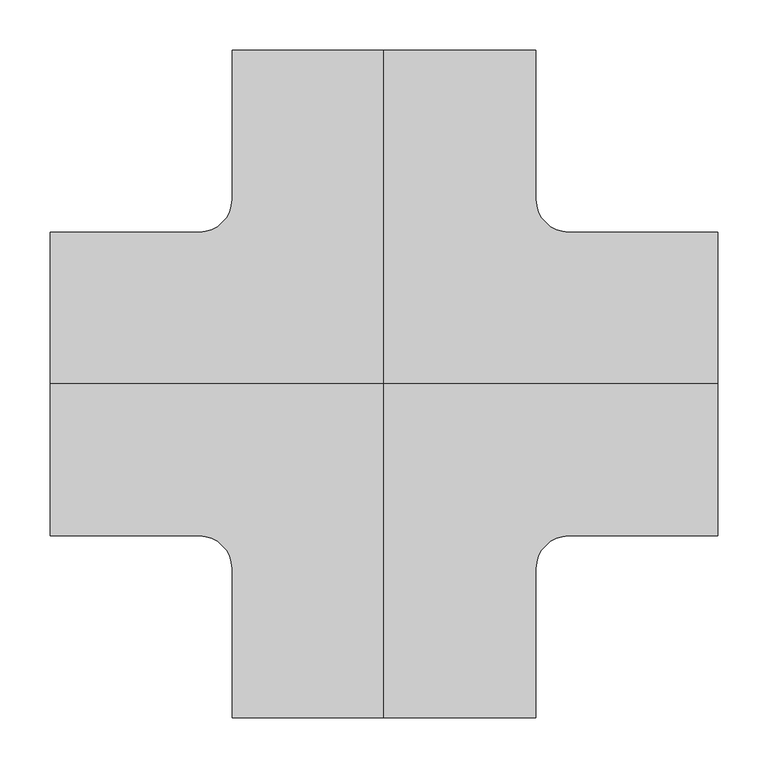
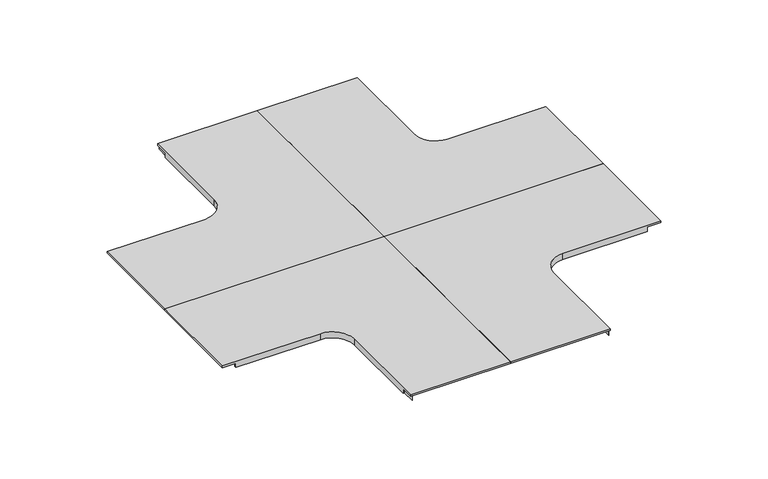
"""IFC4 building model written with IfcOpenShell, lengths in millimetres: cable carrier fitting geometry, CCT_Hyperline_FBTR-CRS-CVR_Крышка на ответвитель крестообразный пластиковый : Крышка на ответвитель крестообразный пластиковый."""

import ifcopenshell
import ifcopenshell.guid

model = None  # the IFC model being written
_history = None  # IfcOwnerHistory: only IFC2X3 demands one
_inside = {}  # id of a spatial element -> (the spatial element, [elements in it])
_under = {}  # id of a project, library or spatial element -> (it, [spatial elements below it])
_declared = {}  # id of a project -> (the project, [libraries it declares])
_typed = {}  # id of a type object -> (the type object, [elements of that type])
_made_of = {}  # id of a material, layer set ... -> (it, [elements and type objects made of it])


def new_model(schema):
    """Start an empty IFC model of exactly this schema.

    Asked for "IFC4X3", IfcOpenShell would pick the latest addendum, in which some entities
    have other attributes; the version numbers below select the first issue.
    IFC2X3 requires an IfcOwnerHistory on every rooted entity: one is made here for all.
    """
    global model, _history
    if schema == "IFC4X3":
        model = ifcopenshell.file(schema_version=(4, 3, 0, 0))
    else:
        model = ifcopenshell.file(schema=schema)
    _inside.clear()
    _under.clear()
    _declared.clear()
    _typed.clear()
    _made_of.clear()
    _history = None
    if model.schema == "IFC2X3":
        org = make("IfcOrganization", Name="unknown")
        user = make(
            "IfcPersonAndOrganization",
            ThePerson=make("IfcPerson", FamilyName="unknown"),
            TheOrganization=org,
        )
        app = make(
            "IfcApplication",
            ApplicationDeveloper=org,
            Version="unknown",
            ApplicationFullName="unknown",
            ApplicationIdentifier="unknown",
        )
        _history = make(
            "IfcOwnerHistory",
            OwningUser=user,
            OwningApplication=app,
            ChangeAction="ADDED",
            CreationDate=0,
        )
    return model


def make(cls, **values):
    """One entity of the class cls with the attributes given. An attribute that is None is left unset."""
    return model.create_entity(
        cls, **{name: value for name, value in values.items() if value is not None}
    )


def rooted(cls, **values):
    """An entity with a GlobalId (a new one), such as an element, a storey or a relation."""
    return make(cls, GlobalId=ifcopenshell.guid.new(), OwnerHistory=_history, **values)


def si_unit(unit_type, name, prefix=None):
    """IfcSIUnit, for example si_unit("LENGTHUNIT", "METRE", prefix="MILLI")."""
    return make("IfcSIUnit", UnitType=unit_type, Prefix=prefix, Name=name)


def assignment(units):
    """IfcUnitAssignment: the units of a project."""
    return None if units is None else make("IfcUnitAssignment", Units=units)


def point(xyz):
    """IfcCartesianPoint."""
    return None if xyz is None else make("IfcCartesianPoint", Coordinates=xyz)


def direction(xyz):
    """IfcDirection."""
    return None if xyz is None else make("IfcDirection", DirectionRatios=xyz)


def frame(location, z_axis=None, x_axis=None):
    """IfcAxis2Placement3D, a coordinate frame: its origin and axes. An axis left out is left unset."""
    return make(
        "IfcAxis2Placement3D",
        Location=point(location),
        Axis=direction(z_axis),
        RefDirection=direction(x_axis),
    )


def origin():
    """The frame at (0, 0, 0) with its axes left unset."""
    return frame((0.0, 0.0, 0.0))


def place(relative_to, where):
    """IfcLocalPlacement: puts the frame where relative to a parent placement (None: the world)."""
    return make(
        "IfcLocalPlacement", PlacementRelTo=relative_to, RelativePlacement=where
    )


def context(
    kind, dimensions, precision=None, world=None, true_north=None, identifier=None
):
    """IfcGeometricRepresentationContext, for example the 3D "Model" context."""
    return make(
        "IfcGeometricRepresentationContext",
        ContextIdentifier=identifier,
        ContextType=kind,
        CoordinateSpaceDimension=dimensions,
        Precision=precision,
        WorldCoordinateSystem=world,
        TrueNorth=true_north,
    )


def project(units=None, contexts=None):
    """IfcProject with its units and contexts."""
    return rooted(
        "IfcProject",
        Name="project",
        RepresentationContexts=contexts,
        UnitsInContext=assignment(units),
    )


def spatial(cls, under=None, at=None, **own):
    """A site, building, storey or space (cls), placed at a placement, below another one or the project."""
    s = rooted(cls, ObjectPlacement=at, **own)
    if under is not None:
        _under.setdefault(under.id(), (under, []))[1].append(s)
    return s


def polyline(points):
    """IfcPolyline through the points."""
    return make("IfcPolyline", Points=[point(p) for p in points])


def circle_curve(where, radius):
    """IfcCircle in the frame where."""
    return make("IfcCircle", Position=where, Radius=radius)


def shape(context_of_items, identifier, shape_type, items):
    """IfcShapeRepresentation: the items that make up one representation, for example the "Body"."""
    return make(
        "IfcShapeRepresentation",
        ContextOfItems=context_of_items,
        RepresentationIdentifier=identifier,
        RepresentationType=shape_type,
        Items=items,
    )


def source(mapping_origin, context_of_items, identifier, shape_type, items):
    """IfcRepresentationMap: a shape defined once, which mapped items show again and again."""
    return make(
        "IfcRepresentationMap",
        MappingOrigin=mapping_origin,
        MappedRepresentation=shape(context_of_items, identifier, shape_type, items),
    )


def transform(
    local_origin,
    x_axis=None,
    y_axis=None,
    z_axis=None,
    scale=None,
    scale2=None,
    scale3=None,
    uniform=True,
):
    """IfcCartesianTransformationOperator3D, or its non-uniform kind. x_axis, y_axis, z_axis: its Axis1, 2, 3."""
    if uniform:
        return make(
            "IfcCartesianTransformationOperator3D",
            Axis1=direction(x_axis),
            Axis2=direction(y_axis),
            LocalOrigin=point(local_origin),
            Scale=scale,
            Axis3=direction(z_axis),
        )
    return make(
        "IfcCartesianTransformationOperator3DnonUniform",
        Axis1=direction(x_axis),
        Axis2=direction(y_axis),
        LocalOrigin=point(local_origin),
        Scale=scale,
        Axis3=direction(z_axis),
        Scale2=scale2,
        Scale3=scale3,
    )


def mapped(mapping_source, mapping_target):
    """IfcMappedItem: shows the shape of a source again, moved by a transform."""
    return make(
        "IfcMappedItem", MappingSource=mapping_source, MappingTarget=mapping_target
    )


def made_of(thing, what):
    """Note that an element or type object is made of a material, layer set ...; save() writes the relation."""
    if what is not None:
        _made_of.setdefault(what.id(), (what, []))[1].append(thing)
    return thing


def element(
    cls,
    number,
    at=None,
    inside=None,
    cuts=None,
    type_object=None,
    material=None,
    context=None,
    identifier="Body",
    shape_type=None,
    held_by="IfcProductDefinitionShape",
    body=None,
    shapes=None,
    **own,
):
    """One element of the class cls, such as IfcWall. Its Tag is "e" and its number.

    at: its placement. inside: the storey or other place that contains it. cuts: it is an
    opening in that element (IfcRelVoidsElement). A single representation is given by context,
    identifier, shape_type and body (its items); several are given by shapes. held_by: the class
    of the entity that holds the representations. save() writes the other relations.
    """
    e = rooted(cls, Tag="e%d" % number, ObjectPlacement=at, **own)
    if body is not None:
        shapes = [shape(context, identifier, shape_type, body)]
    if shapes is not None:
        e.Representation = make(held_by, Representations=shapes)
    if inside is not None:
        _inside.setdefault(inside.id(), (inside, []))[1].append(e)
    if cuts is not None:
        rooted(
            "IfcRelVoidsElement", RelatingBuildingElement=cuts, RelatedOpeningElement=e
        )
    if type_object is not None:
        _typed.setdefault(type_object.id(), (type_object, []))[1].append(e)
    return made_of(e, material)


def aggregate(whole, parts):
    """IfcRelAggregates: a whole, such as a stair, and the parts it consists of."""
    return rooted("IfcRelAggregates", RelatingObject=whole, RelatedObjects=parts)


def save(model, path):
    """Write the relations noted so far, then the file.

    IfcRelAggregates (storeys below a building ...), IfcRelContainedInSpatialStructure (elements
    in a storey), IfcRelDefinesByType, IfcRelAssociatesMaterial and IfcRelDeclares: one each for
    every whole, place, type object, material and project.
    """
    for whole, parts in _under.values():
        aggregate(whole, parts)
    for where, things in _inside.values():
        rooted(
            "IfcRelContainedInSpatialStructure",
            RelatedElements=things,
            RelatingStructure=where,
        )
    for kind, things in _typed.values():
        rooted("IfcRelDefinesByType", RelatedObjects=things, RelatingType=kind)
    for what, things in _made_of.values():
        rooted("IfcRelAssociatesMaterial", RelatedObjects=things, RelatingMaterial=what)
    for by, libraries in _declared.values():
        rooted("IfcRelDeclares", RelatingContext=by, RelatedDefinitions=libraries)
    model.write(path)


def plane_surface(at):
    """IfcPlane: the flat surface through the origin of the frame at, square to its z axis."""
    return make("IfcPlane", Position=at)


def cylinder_surface(at, radius):
    """IfcCylindricalSurface: all points at the distance radius from the z axis of the frame at."""
    return make("IfcCylindricalSurface", Position=at, Radius=radius)


def revolved_surface(curve, axis_point, axis_direction):
    """IfcSurfaceOfRevolution: the curve turned about the line through axis_point along axis_direction."""
    return make(
        "IfcSurfaceOfRevolution",
        SweptCurve=make("IfcArbitraryOpenProfileDef", ProfileType="CURVE", Curve=curve),
        AxisPosition=make("IfcAxis1Placement", Location=point(axis_point), Axis=direction(axis_direction)),
    )


def advanced_brep(points, edges, surfaces, faces):
    """IfcAdvancedBrep: a solid bounded by faces that lie on surfaces and meet in shared edges.

    An edge is (start, end): straight between two places in points (the first is 0);
    or (start, end, curve); or (start, end, curve, False) where it runs against its curve.
    A face is (place in surfaces, loops), or (place, loops, False) where it looks against
    its surface's normal. A loop lists edges by number (the first is 1), with a minus sign
    where the edge is run from its end to its start. The first loop is the outer one.
    """
    corners = [point(p) for p in points]
    vertices = [make("IfcVertexPoint", VertexGeometry=c) for c in corners]
    made = []
    for start, end, *more in edges:
        made.append(
            make(
                "IfcEdgeCurve",
                EdgeStart=vertices[start],
                EdgeEnd=vertices[end],
                EdgeGeometry=more[0] if more else make("IfcPolyline", Points=[corners[start], corners[end]]),
                SameSense=more[1] if len(more) > 1 else True,
            )
        )
    hull = []
    for where, loops, *sense in faces:
        bounds = []
        for j, loop in enumerate(loops):
            ring = [make("IfcOrientedEdge", EdgeElement=made[abs(k) - 1], Orientation=k > 0) for k in loop]
            bounds.append(
                make(
                    "IfcFaceOuterBound" if j == 0 else "IfcFaceBound",
                    Bound=make("IfcEdgeLoop", EdgeList=ring),
                    Orientation=True,
                )
            )
        hull.append(make("IfcAdvancedFace", Bounds=bounds, FaceSurface=surfaces[where], SameSense=sense[0] if sense else True))
    return make("IfcAdvancedBrep", Outer=make("IfcClosedShell", CfsFaces=hull))


def cable_carrier_fitting_def6d2b1(model_context):
    return source(origin(), model_context, "Body", "AdvancedBrep", [
        advanced_brep(
        [(330.5, -150.54, 52.54), (330.5, -150.54, 50.0), (330.5, 0.0, 50.0), (330.5, 0.0, 52.54), (183.0, -148.0, 50.0), (310.1504105, -148.0, 50.0), (310.1504105, -148.0, 43.0), (183.0, -148.0, 43.0), (310.1504105, -150.54, 43.0), (183.0, -150.54, 43.0), (150.54, -183.0, 43.0), (150.54, -310.5, 43.0), (148.46, -310.5, 43.0), (148.46, -330.5, 43.0), (148.0, -330.5, 43.0), (148.0, -183.0, 43.0), (183.0, -150.54, 52.54), (310.1504105, -150.54, 50.0), (148.0, -183.0, 50.0), (150.54, -183.0, 52.54), (0.0, -330.5, 52.54), (0.0, -330.5, 50.0), (148.0, -330.5, 50.0), (148.46, -330.5, 50.0), (150.54, -330.5, 50.0), (150.54, -330.5, 52.54), (150.54, -310.5, 50.0), (0.0, 0.0, 52.54), (0.0, 0.0, 50.0), (148.46, -310.5, 50.0)],
        [
            (0, 1),
            (1, 2),
            (2, 3),
            (3, 0),
            (4, 5),
            (5, 6),
            (6, 7),
            (7, 4),
            (6, 8),
            (8, 9),
            (9, 10, circle_curve(frame((183.0, -183.0, 43.0), z_axis=(0.0, 0.0, 1.0), x_axis=(0.0, 1.0, 0.0)), 32.46)),
            (10, 11),
            (11, 12),
            (12, 13),
            (13, 14),
            (14, 15),
            (15, 7, circle_curve(frame((183.0, -183.0, 43.0), z_axis=(0.0, 0.0, -1.0), x_axis=(0.0, 1.0, 0.0)), 35.0)),
            (16, 9),
            (8, 17),
            (17, 1),
            (0, 16),
            (15, 18),
            (18, 4, circle_curve(frame((183.0, -183.0, 50.0), z_axis=(0.0, 0.0, -1.0), x_axis=(0.0, 1.0, 0.0)), 35.0)),
            (19, 10),
            (16, 19, circle_curve(frame((183.0, -183.0, 52.54), z_axis=(0.0, 0.0, 1.0), x_axis=(0.0, 1.0, 0.0)), 32.46)),
            (20, 21),
            (21, 22),
            (22, 14),
            (13, 23),
            (23, 24),
            (24, 25),
            (25, 20),
            (22, 18),
            (24, 26),
            (26, 11),
            (19, 25),
            (3, 27),
            (27, 20),
            (2, 28),
            (28, 27),
            (17, 5),
            (21, 28),
            (26, 29),
            (29, 12),
            (29, 23),
        ],
        [
            plane_surface(frame((330.5, -148.0, 25.0), z_axis=(1.0, 0.0, 0.0), x_axis=(0.0, 0.0, 1.0))),
            plane_surface(frame((330.5, -148.0, 50.0), z_axis=(0.0, 1.0, 0.0), x_axis=(-1.0, 0.0, 0.0))),
            plane_surface(frame((330.5, -148.0, 43.0), z_axis=(0.0, 0.0, -1.0), x_axis=(-1.0, 0.0, 0.0))),
            plane_surface(frame((330.5, -150.54, 43.0), z_axis=(0.0, -1.0, 0.0), x_axis=(-1.0, 0.0, 0.0))),
            cylinder_surface(frame((183.0, -183.0, 25.0), z_axis=(0.0, 0.0, -1.0), x_axis=(0.0, 1.0, 0.0)), 35.0),
            revolved_surface(polyline([(183.0, -150.54, 43.0), (183.0, -150.54, 52.54)]), (183.0, -183.0, 25.0), (0.0, 0.0, -1.0)),
            plane_surface(frame((148.0, -330.5, 25.0), z_axis=(0.0, -1.0, 0.0), x_axis=(0.0, 0.0, 1.0))),
            plane_surface(frame((148.0, -183.0, 50.0), z_axis=(-1.0, 0.0, 0.0), x_axis=(0.0, -1.0, 0.0))),
            plane_surface(frame((150.54, -183.0, 43.0), z_axis=(1.0, 0.0, 0.0), x_axis=(0.0, -1.0, 0.0))),
            plane_surface(frame((330.5, -150.54, 52.54), z_axis=(0.0, 0.0, 1.0), x_axis=(-1.0, 0.0, 0.0))),
            plane_surface(frame((330.5, 0.0, 52.54), z_axis=(0.0, 1.0, 0.0), x_axis=(-1.0, 0.0, 0.0))),
            plane_surface(frame((330.5, 0.0, 50.0), z_axis=(0.0, 0.0, -1.0), x_axis=(-1.0, 0.0, 0.0))),
            plane_surface(frame((0.0, -183.0, 52.54), z_axis=(-1.0, 0.0, 0.0), x_axis=(0.0, -1.0, 0.0))),
            plane_surface(frame((310.1504105, -150.54, 43.0), z_axis=(1.0, 0.0, 0.0), x_axis=(0.0, 1.0, 0.0))),
            plane_surface(frame((148.46, -310.5, 43.0), z_axis=(0.0, -1.0, 0.0), x_axis=(1.0, 0.0, 0.0))),
            plane_surface(frame((148.46, -330.5, 50.0), z_axis=(1.0, 0.0, 0.0), x_axis=(0.0, -1.0, 0.0))),
            plane_surface(frame((148.46, -310.5, 50.0), z_axis=(0.0, 0.0, -1.0), x_axis=(1.0, 0.0, 0.0))),
        ],
        [
            (0, [[1, 2, 3, 4]]),
            (1, [[5, 6, 7, 8]]),
            (2, [[-7, 9, 10, 11, 12, 13, 14, 15, 16, 17]]),
            (3, [[18, -10, 19, 20, -1, 21]]),
            (4, [[-8, -17, 22, 23]]),
            (5, [[24, -11, -18, 25]]),
            (6, [[26, 27, 28, -15, 29, 30, 31, 32]]),
            (7, [[-22, -16, -28, 33]]),
            (8, [[-31, 34, 35, -12, -24, 36]]),
            (9, [[37, 38, -32, -36, -25, -21, -4]]),
            (10, [[39, 40, -37, -3]]),
            (11, [[-2, -20, 41, -5, -23, -33, -27, 42, -39]]),
            (12, [[-40, -42, -26, -38]]),
            (13, [[-19, -9, -6, -41]]),
            (14, [[-13, -35, 43, 44]]),
            (15, [[45, -29, -14, -44]]),
            (16, [[-43, -34, -30, -45]]),
        ],
    ),
        advanced_brep(
        [(330.5, 150.54, 52.54), (330.5, 0.0, 52.54), (330.5, 0.0, 50.0), (330.5, 150.54, 50.0), (183.0, 148.0, 50.0), (183.0, 148.0, 43.0), (310.1504105, 148.0, 43.0), (310.1504105, 148.0, 50.0), (148.0, 183.0, 43.0), (148.0, 330.5, 43.0), (148.46, 330.5, 43.0), (148.46, 310.5, 43.0), (150.54, 310.5, 43.0), (150.54, 183.0, 43.0), (183.0, 150.54, 43.0), (310.1504105, 150.54, 43.0), (183.0, 150.54, 52.54), (310.1504105, 150.54, 50.0), (148.0, 183.0, 50.0), (150.54, 183.0, 52.54), (0.0, 330.5, 52.54), (150.54, 330.5, 52.54), (150.54, 330.5, 50.0), (148.46, 330.5, 50.0), (148.0, 330.5, 50.0), (0.0, 330.5, 50.0), (150.54, 310.5, 50.0), (0.0, 0.0, 52.54), (0.0, 0.0, 50.0), (148.46, 310.5, 50.0)],
        [
            (0, 1),
            (1, 2),
            (2, 3),
            (3, 0),
            (4, 5),
            (5, 6),
            (6, 7),
            (7, 4),
            (5, 8, circle_curve(frame((183.0, 183.0, 43.0), z_axis=(0.0, 0.0, -1.0), x_axis=(0.0, -1.0, 0.0)), 35.0)),
            (8, 9),
            (9, 10),
            (10, 11),
            (11, 12),
            (12, 13),
            (13, 14, circle_curve(frame((183.0, 183.0, 43.0), z_axis=(0.0, 0.0, 1.0), x_axis=(0.0, -1.0, 0.0)), 32.46)),
            (14, 15),
            (15, 6),
            (16, 0),
            (3, 17),
            (17, 15),
            (14, 16),
            (4, 18, circle_curve(frame((183.0, 183.0, 50.0), z_axis=(0.0, 0.0, -1.0), x_axis=(0.0, -1.0, 0.0)), 35.0)),
            (18, 8),
            (19, 16, circle_curve(frame((183.0, 183.0, 52.54), z_axis=(0.0, 0.0, 1.0), x_axis=(0.0, -1.0, 0.0)), 32.46)),
            (13, 19),
            (20, 21),
            (21, 22),
            (22, 23),
            (23, 10),
            (9, 24),
            (24, 25),
            (25, 20),
            (18, 24),
            (21, 19),
            (12, 26),
            (26, 22),
            (20, 27),
            (27, 1),
            (27, 28),
            (28, 2),
            (28, 25),
            (7, 17),
            (11, 29),
            (29, 26),
            (23, 29),
        ],
        [
            plane_surface(frame((330.5, 148.0, 25.0), z_axis=(1.0, 0.0, 0.0), x_axis=(0.0, 0.0, 1.0))),
            plane_surface(frame((330.5, 148.0, 50.0), z_axis=(0.0, -1.0, 0.0), x_axis=(-1.0, 0.0, 0.0))),
            plane_surface(frame((330.5, 148.0, 43.0), z_axis=(0.0, 0.0, -1.0), x_axis=(-1.0, 0.0, 0.0))),
            plane_surface(frame((330.5, 150.54, 43.0), z_axis=(0.0, 1.0, 0.0), x_axis=(-1.0, 0.0, 0.0))),
            cylinder_surface(frame((183.0, 183.0, 25.0), z_axis=(0.0, 0.0, -1.0), x_axis=(0.0, -1.0, 0.0)), 35.0),
            revolved_surface(polyline([(183.0, 150.54, 43.0), (183.0, 150.54, 52.54)]), (183.0, 183.0, 25.0), (0.0, 0.0, -1.0)),
            plane_surface(frame((148.0, 330.5, 25.0), z_axis=(0.0, 1.0, 0.0), x_axis=(0.0, 0.0, 1.0))),
            plane_surface(frame((148.0, 183.0, 50.0), z_axis=(-1.0, 0.0, 0.0), x_axis=(0.0, 1.0, 0.0))),
            plane_surface(frame((150.54, 183.0, 43.0), z_axis=(1.0, 0.0, 0.0), x_axis=(0.0, 1.0, 0.0))),
            plane_surface(frame((330.5, 150.54, 52.54), z_axis=(0.0, 0.0, 1.0), x_axis=(-1.0, 0.0, 0.0))),
            plane_surface(frame((330.5, 0.0, 52.54), z_axis=(0.0, -1.0, 0.0), x_axis=(-1.0, 0.0, 0.0))),
            plane_surface(frame((330.5, 0.0, 50.0), z_axis=(0.0, 0.0, -1.0), x_axis=(-1.0, 0.0, 0.0))),
            plane_surface(frame((0.0, 183.0, 52.54), z_axis=(-1.0, 0.0, 0.0), x_axis=(0.0, 1.0, 0.0))),
            plane_surface(frame((310.1504105, 150.54, 43.0), z_axis=(1.0, 0.0, 0.0), x_axis=(0.0, -1.0, 0.0))),
            plane_surface(frame((148.46, 310.5, 43.0), z_axis=(0.0, 1.0, 0.0), x_axis=(1.0, 0.0, 0.0))),
            plane_surface(frame((148.46, 330.5, 50.0), z_axis=(1.0, 0.0, 0.0), x_axis=(0.0, 1.0, 0.0))),
            plane_surface(frame((148.46, 310.5, 50.0), z_axis=(0.0, 0.0, -1.0), x_axis=(1.0, 0.0, 0.0))),
        ],
        [
            (0, [[1, 2, 3, 4]]),
            (1, [[5, 6, 7, 8]]),
            (2, [[9, 10, 11, 12, 13, 14, 15, 16, 17, -6]]),
            (3, [[18, -4, 19, 20, -16, 21]]),
            (4, [[22, 23, -9, -5]]),
            (5, [[24, -21, -15, 25]]),
            (6, [[26, 27, 28, 29, -11, 30, 31, 32]]),
            (7, [[33, -30, -10, -23]]),
            (8, [[34, -25, -14, 35, 36, -27]]),
            (9, [[-1, -18, -24, -34, -26, 37, 38]]),
            (10, [[-2, -38, 39, 40]]),
            (11, [[-40, 41, -31, -33, -22, -8, 42, -19, -3]]),
            (12, [[-37, -32, -41, -39]]),
            (13, [[-42, -7, -17, -20]]),
            (14, [[43, 44, -35, -13]]),
            (15, [[-43, -12, -29, 45]]),
            (16, [[-45, -28, -36, -44]]),
        ],
    ),
        advanced_brep(
        [(-330.5, -150.54, 52.54), (-330.5, 0.0, 52.54), (-330.5, 0.0, 50.0), (-330.5, -150.54, 50.0), (-183.0, -148.0, 50.0), (-183.0, -148.0, 43.0), (-310.1504105, -148.0, 43.0), (-310.1504105, -148.0, 50.0), (-148.0, -183.0, 43.0), (-148.0, -330.5, 43.0), (-148.46, -330.5, 43.0), (-148.46, -310.5, 43.0), (-150.54, -310.5, 43.0), (-150.54, -183.0, 43.0), (-183.0, -150.54, 43.0), (-310.1504105, -150.54, 43.0), (-183.0, -150.54, 52.54), (-310.1504105, -150.54, 50.0), (-148.0, -183.0, 50.0), (-150.54, -183.0, 52.54), (0.0, -330.5, 52.54), (-150.54, -330.5, 52.54), (-150.54, -330.5, 50.0), (-148.46, -330.5, 50.0), (-148.0, -330.5, 50.0), (0.0, -330.5, 50.0), (-150.54, -310.5, 50.0), (0.0, 0.0, 52.54), (0.0, 0.0, 50.0), (-148.46, -310.5, 50.0)],
        [
            (0, 1),
            (1, 2),
            (2, 3),
            (3, 0),
            (4, 5),
            (5, 6),
            (6, 7),
            (7, 4),
            (5, 8, circle_curve(frame((-183.0, -183.0, 43.0), z_axis=(0.0, 0.0, -1.0), x_axis=(0.0, 1.0, 0.0)), 35.0)),
            (8, 9),
            (9, 10),
            (10, 11),
            (11, 12),
            (12, 13),
            (13, 14, circle_curve(frame((-183.0, -183.0, 43.0), z_axis=(0.0, 0.0, 1.0), x_axis=(0.0, 1.0, 0.0)), 32.46)),
            (14, 15),
            (15, 6),
            (16, 0),
            (3, 17),
            (17, 15),
            (14, 16),
            (4, 18, circle_curve(frame((-183.0, -183.0, 50.0), z_axis=(0.0, 0.0, -1.0), x_axis=(0.0, 1.0, 0.0)), 35.0)),
            (18, 8),
            (19, 16, circle_curve(frame((-183.0, -183.0, 52.54), z_axis=(0.0, 0.0, 1.0), x_axis=(0.0, 1.0, 0.0)), 32.46)),
            (13, 19),
            (20, 21),
            (21, 22),
            (22, 23),
            (23, 10),
            (9, 24),
            (24, 25),
            (25, 20),
            (18, 24),
            (21, 19),
            (12, 26),
            (26, 22),
            (20, 27),
            (27, 1),
            (27, 28),
            (28, 2),
            (28, 25),
            (7, 17),
            (11, 29),
            (29, 26),
            (23, 29),
        ],
        [
            plane_surface(frame((-330.5, -148.0, 25.0), z_axis=(-1.0, 0.0, 0.0), x_axis=(0.0, 0.0, 1.0))),
            plane_surface(frame((-330.5, -148.0, 50.0), z_axis=(0.0, 1.0, 0.0), x_axis=(1.0, 0.0, 0.0))),
            plane_surface(frame((-330.5, -148.0, 43.0), z_axis=(0.0, 0.0, -1.0), x_axis=(1.0, 0.0, 0.0))),
            plane_surface(frame((-330.5, -150.54, 43.0), z_axis=(0.0, -1.0, 0.0), x_axis=(1.0, 0.0, 0.0))),
            cylinder_surface(frame((-183.0, -183.0, 25.0), z_axis=(0.0, 0.0, -1.0), x_axis=(0.0, 1.0, 0.0)), 35.0),
            revolved_surface(polyline([(-183.0, -150.54, 43.0), (-183.0, -150.54, 52.54)]), (-183.0, -183.0, 25.0), (0.0, 0.0, -1.0)),
            plane_surface(frame((-148.0, -330.5, 25.0), z_axis=(0.0, -1.0, 0.0), x_axis=(0.0, 0.0, 1.0))),
            plane_surface(frame((-148.0, -183.0, 50.0), z_axis=(1.0, 0.0, 0.0), x_axis=(0.0, -1.0, 0.0))),
            plane_surface(frame((-150.54, -183.0, 43.0), z_axis=(-1.0, 0.0, 0.0), x_axis=(0.0, -1.0, 0.0))),
            plane_surface(frame((-330.5, -150.54, 52.54), z_axis=(0.0, 0.0, 1.0), x_axis=(1.0, 0.0, 0.0))),
            plane_surface(frame((-330.5, 0.0, 52.54), z_axis=(0.0, 1.0, 0.0), x_axis=(1.0, 0.0, 0.0))),
            plane_surface(frame((-330.5, 0.0, 50.0), z_axis=(0.0, 0.0, -1.0), x_axis=(1.0, 0.0, 0.0))),
            plane_surface(frame((0.0, -183.0, 52.54), z_axis=(1.0, 0.0, 0.0), x_axis=(0.0, -1.0, 0.0))),
            plane_surface(frame((-310.1504105, -150.54, 43.0), z_axis=(-1.0, 0.0, 0.0), x_axis=(0.0, 1.0, 0.0))),
            plane_surface(frame((-148.46, -310.5, 43.0), z_axis=(0.0, -1.0, 0.0), x_axis=(-1.0, 0.0, 0.0))),
            plane_surface(frame((-148.46, -330.5, 50.0), z_axis=(-1.0, 0.0, 0.0), x_axis=(0.0, -1.0, 0.0))),
            plane_surface(frame((-148.46, -310.5, 50.0), z_axis=(0.0, 0.0, -1.0), x_axis=(-1.0, 0.0, 0.0))),
        ],
        [
            (0, [[1, 2, 3, 4]]),
            (1, [[5, 6, 7, 8]]),
            (2, [[9, 10, 11, 12, 13, 14, 15, 16, 17, -6]]),
            (3, [[18, -4, 19, 20, -16, 21]]),
            (4, [[22, 23, -9, -5]]),
            (5, [[24, -21, -15, 25]]),
            (6, [[26, 27, 28, 29, -11, 30, 31, 32]]),
            (7, [[33, -30, -10, -23]]),
            (8, [[34, -25, -14, 35, 36, -27]]),
            (9, [[-1, -18, -24, -34, -26, 37, 38]]),
            (10, [[-2, -38, 39, 40]]),
            (11, [[-40, 41, -31, -33, -22, -8, 42, -19, -3]]),
            (12, [[-37, -32, -41, -39]]),
            (13, [[-42, -7, -17, -20]]),
            (14, [[43, 44, -35, -13]]),
            (15, [[-43, -12, -29, 45]]),
            (16, [[-45, -28, -36, -44]]),
        ],
    ),
        advanced_brep(
        [(-330.5, 150.54, 52.54), (-330.5, 150.54, 50.0), (-330.5, 0.0, 50.0), (-330.5, 0.0, 52.54), (-183.0, 148.0, 50.0), (-310.1504105, 148.0, 50.0), (-310.1504105, 148.0, 43.0), (-183.0, 148.0, 43.0), (-310.1504105, 150.54, 43.0), (-183.0, 150.54, 43.0), (-150.54, 183.0, 43.0), (-150.54, 310.5, 43.0), (-148.46, 310.5, 43.0), (-148.46, 330.5, 43.0), (-148.0, 330.5, 43.0), (-148.0, 183.0, 43.0), (-183.0, 150.54, 52.54), (-310.1504105, 150.54, 50.0), (-148.0, 183.0, 50.0), (-150.54, 183.0, 52.54), (0.0, 330.5, 52.54), (0.0, 330.5, 50.0), (-148.0, 330.5, 50.0), (-148.46, 330.5, 50.0), (-150.54, 330.5, 50.0), (-150.54, 330.5, 52.54), (-150.54, 310.5, 50.0), (0.0, 0.0, 52.54), (0.0, 0.0, 50.0), (-148.46, 310.5, 50.0)],
        [
            (0, 1),
            (1, 2),
            (2, 3),
            (3, 0),
            (4, 5),
            (5, 6),
            (6, 7),
            (7, 4),
            (6, 8),
            (8, 9),
            (9, 10, circle_curve(frame((-183.0, 183.0, 43.0), z_axis=(0.0, 0.0, 1.0), x_axis=(0.0, -1.0, 0.0)), 32.46)),
            (10, 11),
            (11, 12),
            (12, 13),
            (13, 14),
            (14, 15),
            (15, 7, circle_curve(frame((-183.0, 183.0, 43.0), z_axis=(0.0, 0.0, -1.0), x_axis=(0.0, -1.0, 0.0)), 35.0)),
            (16, 9),
            (8, 17),
            (17, 1),
            (0, 16),
            (15, 18),
            (18, 4, circle_curve(frame((-183.0, 183.0, 50.0), z_axis=(0.0, 0.0, -1.0), x_axis=(0.0, -1.0, 0.0)), 35.0)),
            (19, 10),
            (16, 19, circle_curve(frame((-183.0, 183.0, 52.54), z_axis=(0.0, 0.0, 1.0), x_axis=(0.0, -1.0, 0.0)), 32.46)),
            (20, 21),
            (21, 22),
            (22, 14),
            (13, 23),
            (23, 24),
            (24, 25),
            (25, 20),
            (22, 18),
            (24, 26),
            (26, 11),
            (19, 25),
            (3, 27),
            (27, 20),
            (2, 28),
            (28, 27),
            (17, 5),
            (21, 28),
            (26, 29),
            (29, 12),
            (29, 23),
        ],
        [
            plane_surface(frame((-330.5, 148.0, 25.0), z_axis=(-1.0, 0.0, 0.0), x_axis=(0.0, 0.0, 1.0))),
            plane_surface(frame((-330.5, 148.0, 50.0), z_axis=(0.0, -1.0, 0.0), x_axis=(1.0, 0.0, 0.0))),
            plane_surface(frame((-330.5, 148.0, 43.0), z_axis=(0.0, 0.0, -1.0), x_axis=(1.0, 0.0, 0.0))),
            plane_surface(frame((-330.5, 150.54, 43.0), z_axis=(0.0, 1.0, 0.0), x_axis=(1.0, 0.0, 0.0))),
            cylinder_surface(frame((-183.0, 183.0, 25.0), z_axis=(0.0, 0.0, -1.0), x_axis=(0.0, -1.0, 0.0)), 35.0),
            revolved_surface(polyline([(-183.0, 150.54, 43.0), (-183.0, 150.54, 52.54)]), (-183.0, 183.0, 25.0), (0.0, 0.0, -1.0)),
            plane_surface(frame((-148.0, 330.5, 25.0), z_axis=(0.0, 1.0, 0.0), x_axis=(0.0, 0.0, 1.0))),
            plane_surface(frame((-148.0, 183.0, 50.0), z_axis=(1.0, 0.0, 0.0), x_axis=(0.0, 1.0, 0.0))),
            plane_surface(frame((-150.54, 183.0, 43.0), z_axis=(-1.0, 0.0, 0.0), x_axis=(0.0, 1.0, 0.0))),
            plane_surface(frame((-330.5, 150.54, 52.54), z_axis=(0.0, 0.0, 1.0), x_axis=(1.0, 0.0, 0.0))),
            plane_surface(frame((-330.5, 0.0, 52.54), z_axis=(0.0, -1.0, 0.0), x_axis=(1.0, 0.0, 0.0))),
            plane_surface(frame((-330.5, 0.0, 50.0), z_axis=(0.0, 0.0, -1.0), x_axis=(1.0, 0.0, 0.0))),
            plane_surface(frame((0.0, 183.0, 52.54), z_axis=(1.0, 0.0, 0.0), x_axis=(0.0, 1.0, 0.0))),
            plane_surface(frame((-310.1504105, 150.54, 43.0), z_axis=(-1.0, 0.0, 0.0), x_axis=(0.0, -1.0, 0.0))),
            plane_surface(frame((-148.46, 310.5, 43.0), z_axis=(0.0, 1.0, 0.0), x_axis=(-1.0, 0.0, 0.0))),
            plane_surface(frame((-148.46, 330.5, 50.0), z_axis=(-1.0, 0.0, 0.0), x_axis=(0.0, 1.0, 0.0))),
            plane_surface(frame((-148.46, 310.5, 50.0), z_axis=(0.0, 0.0, -1.0), x_axis=(-1.0, 0.0, 0.0))),
        ],
        [
            (0, [[1, 2, 3, 4]]),
            (1, [[5, 6, 7, 8]]),
            (2, [[-7, 9, 10, 11, 12, 13, 14, 15, 16, 17]]),
            (3, [[18, -10, 19, 20, -1, 21]]),
            (4, [[-8, -17, 22, 23]]),
            (5, [[24, -11, -18, 25]]),
            (6, [[26, 27, 28, -15, 29, 30, 31, 32]]),
            (7, [[-22, -16, -28, 33]]),
            (8, [[-31, 34, 35, -12, -24, 36]]),
            (9, [[37, 38, -32, -36, -25, -21, -4]]),
            (10, [[39, 40, -37, -3]]),
            (11, [[-2, -20, 41, -5, -23, -33, -27, 42, -39]]),
            (12, [[-40, -42, -26, -38]]),
            (13, [[-19, -9, -6, -41]]),
            (14, [[-13, -35, 43, 44]]),
            (15, [[45, -29, -14, -44]]),
            (16, [[-43, -34, -30, -45]]),
        ],
    ),
    ])


if __name__ == "__main__":
    model = new_model("IFC4")
    model_context = context("Model", 3, world=origin())
    ifc_project = project(units=[si_unit("LENGTHUNIT", "METRE", prefix="MILLI")], contexts=[model_context])
    site = spatial("IfcSite", under=ifc_project)
    building = spatial("IfcBuilding", under=site)
    placement = place(None, origin())
    cable_carrier_fitting_shape = cable_carrier_fitting_def6d2b1(model_context)
    element("IfcCableCarrierFitting", 1, ObjectType="CCT_Hyperline_FBTR-CRS-CVR_Крышка на ответвитель крестообразный пластиковый : Крышка на ответвитель крестообразный пластиковый", at=placement, inside=building, context=model_context, shape_type="MappedRepresentation", body=[
        mapped(cable_carrier_fitting_shape, transform((0.0, 0.0, 0.0), x_axis=(1.0, 0.0, 0.0), y_axis=(0.0, 1.0, 0.0), z_axis=(0.0, 0.0, 1.0))),
    ])
    save(model, "model.ifc")
